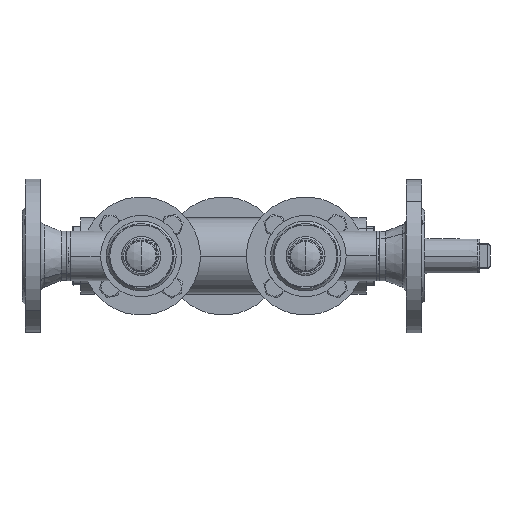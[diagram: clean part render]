
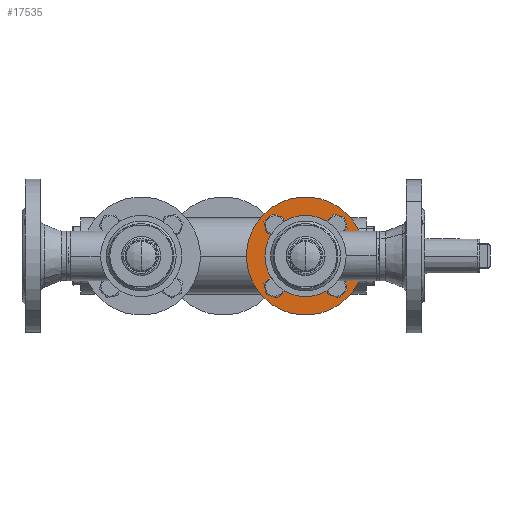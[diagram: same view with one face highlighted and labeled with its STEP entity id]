
A CAD part, left-side view. The second image highlights one B-rep face of the part: STEP entity #17535.
In plain terms, the highlighted planar face has unit normal (-1, 0, 0) as drawn and (0, 1, 0) by its records, which use the part's own axes.
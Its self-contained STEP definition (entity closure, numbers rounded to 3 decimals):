
#17080 = CIRCLE ( 'NONE', #17081, 7. ) ;
#17081 = AXIS2_PLACEMENT_3D ( 'NONE', #17082, #17083, #17111 ) ;
#17082 = CARTESIAN_POINT ( 'NONE',  ( 0., 18., 42.5 ) ) ;
#17083 = DIRECTION ( 'NONE',  ( 0., 1., 0. ) ) ;
#17111 = DIRECTION ( 'NONE',  ( 0., 0., -1. ) ) ;
#17187 = EDGE_LOOP ( 'NONE', ( #15871, #13275 ) ) ;
#1115 = CARTESIAN_POINT ( 'NONE',  ( -49.5, 18., 0. ) ) ;
#17535 = ADVANCED_FACE ( 'NONE', ( #41759, #41760, #41761, #41762, #41763, #41764 ), #41786, .F. ) ;
#17977 = ORIENTED_EDGE ( 'NONE', *, *, #36695, .T. ) ;
#1794 = CARTESIAN_POINT ( 'NONE',  ( 57.5, 18., 0. ) ) ;
#2065 = CIRCLE ( 'NONE', #2066, 7. ) ;
#2066 = AXIS2_PLACEMENT_3D ( 'NONE', #2067, #2068, #2069 ) ;
#2067 = CARTESIAN_POINT ( 'NONE',  ( -42.5, 18., 0. ) ) ;
#2068 = DIRECTION ( 'NONE',  ( 0., 1., 0. ) ) ;
#2069 = DIRECTION ( 'NONE',  ( 1., 0., 0. ) ) ;
#2154 = CIRCLE ( 'NONE', #2155, 57.5 ) ;
#2155 = AXIS2_PLACEMENT_3D ( 'NONE', #2156, #2157, #2158 ) ;
#2156 = CARTESIAN_POINT ( 'NONE',  ( 0., 18., 0. ) ) ;
#2157 = DIRECTION ( 'NONE',  ( 0., 1., 0. ) ) ;
#2158 = DIRECTION ( 'NONE',  ( -1., 0., 0. ) ) ;
#2184 = CARTESIAN_POINT ( 'NONE',  ( -57.5, 18., 0. ) ) ;
#2460 = CIRCLE ( 'NONE', #2461, 57.5 ) ;
#2461 = AXIS2_PLACEMENT_3D ( 'NONE', #2462, #2485, #2486 ) ;
#2462 = CARTESIAN_POINT ( 'NONE',  ( 0., 18., 0. ) ) ;
#2485 = DIRECTION ( 'NONE',  ( 0., 1., 0. ) ) ;
#2486 = DIRECTION ( 'NONE',  ( -1., 0., 0. ) ) ;
#19051 = ORIENTED_EDGE ( 'NONE', *, *, #37037, .T. ) ;
#2723 = VERTEX_POINT ( 'NONE', #11559 ) ;
#19246 = VERTEX_POINT ( 'NONE', #1115 ) ;
#2921 = VERTEX_POINT ( 'NONE', #11793 ) ;
#19558 = VERTEX_POINT ( 'NONE', #1794 ) ;
#3199 = EDGE_CURVE ( 'NONE', #28268, #2723, #14535, .T. ) ;
#19706 = EDGE_CURVE ( 'NONE', #21528, #19246, #2065, .T. ) ;
#3384 = EDGE_CURVE ( 'NONE', #28229, #2921, #15664, .T. ) ;
#20117 = EDGE_LOOP ( 'NONE', ( #19051, #17977 ) ) ;
#3791 = CIRCLE ( 'NONE', #3818, 25.748 ) ;
#3818 = AXIS2_PLACEMENT_3D ( 'NONE', #3819, #3820, #3821 ) ;
#3819 = CARTESIAN_POINT ( 'NONE',  ( 0., 18., 0. ) ) ;
#3820 = DIRECTION ( 'NONE',  ( 0., 1., 0. ) ) ;
#3821 = DIRECTION ( 'NONE',  ( -1., 0., 0. ) ) ;
#36695 = EDGE_CURVE ( 'NONE', #19558, #36735, #2154, .T. ) ;
#36735 = VERTEX_POINT ( 'NONE', #2184 ) ;
#3997 = CARTESIAN_POINT ( 'NONE',  ( -35.5, 18., 0. ) ) ;
#20434 = CARTESIAN_POINT ( 'NONE',  ( 35.5, 18., 0. ) ) ;
#20509 = CARTESIAN_POINT ( 'NONE',  ( -7., 18., -42.5 ) ) ;
#20620 = ORIENTED_EDGE ( 'NONE', *, *, #3384, .F. ) ;
#37037 = EDGE_CURVE ( 'NONE', #36735, #19558, #2460, .T. ) ;
#4681 = EDGE_CURVE ( 'NONE', #2723, #28268, #17080, .T. ) ;
#21125 = CIRCLE ( 'NONE', #21126, 7. ) ;
#21126 = AXIS2_PLACEMENT_3D ( 'NONE', #21127, #21128, #21129 ) ;
#21127 = CARTESIAN_POINT ( 'NONE',  ( 42.5, 18., 0. ) ) ;
#21128 = DIRECTION ( 'NONE',  ( 0., 1., 0. ) ) ;
#21129 = DIRECTION ( 'NONE',  ( -1., 0., 0. ) ) ;
#21160 = CIRCLE ( 'NONE', #21161, 7. ) ;
#21161 = AXIS2_PLACEMENT_3D ( 'NONE', #21162, #21163, #21164 ) ;
#21162 = CARTESIAN_POINT ( 'NONE',  ( 0., 18., -42.5 ) ) ;
#21163 = DIRECTION ( 'NONE',  ( 0., 1., 0. ) ) ;
#21164 = DIRECTION ( 'NONE',  ( 0., 0., 1. ) ) ;
#21528 = VERTEX_POINT ( 'NONE', #3997 ) ;
#21585 = CIRCLE ( 'NONE', #21586, 7. ) ;
#21586 = AXIS2_PLACEMENT_3D ( 'NONE', #21587, #21588, #21589 ) ;
#21587 = CARTESIAN_POINT ( 'NONE',  ( -42.5, 18., 0. ) ) ;
#21588 = DIRECTION ( 'NONE',  ( 0., 1., 0. ) ) ;
#21589 = DIRECTION ( 'NONE',  ( 1., 0., 0. ) ) ;
#38039 = EDGE_CURVE ( 'NONE', #2921, #28229, #3791, .T. ) ;
#21684 = ORIENTED_EDGE ( 'NONE', *, *, #38039, .F. ) ;
#5766 = ORIENTED_EDGE ( 'NONE', *, *, #4681, .F. ) ;
#22750 = EDGE_LOOP ( 'NONE', ( #21684, #20620 ) ) ;
#23243 = ORIENTED_EDGE ( 'NONE', *, *, #8632, .F. ) ;
#7286 = EDGE_LOOP ( 'NONE', ( #5766, #26625 ) ) ;
#24312 = EDGE_CURVE ( 'NONE', #7984, #11227, #8499, .T. ) ;
#7984 = VERTEX_POINT ( 'NONE', #20434 ) ;
#7986 = ORIENTED_EDGE ( 'NONE', *, *, #19706, .F. ) ;
#8043 = VERTEX_POINT ( 'NONE', #20509 ) ;
#24585 = CARTESIAN_POINT ( 'NONE',  ( 49.5, 18., 0. ) ) ;
#24586 = CARTESIAN_POINT ( 'NONE',  ( 7., 18., -42.5 ) ) ;
#8499 = CIRCLE ( 'NONE', #8500, 7. ) ;
#8500 = AXIS2_PLACEMENT_3D ( 'NONE', #8501, #8502, #8503 ) ;
#8501 = CARTESIAN_POINT ( 'NONE',  ( 42.5, 18., 0. ) ) ;
#8502 = DIRECTION ( 'NONE',  ( 0., 1., 0. ) ) ;
#8503 = DIRECTION ( 'NONE',  ( -1., 0., 0. ) ) ;
#8632 = EDGE_CURVE ( 'NONE', #11227, #7984, #21125, .T. ) ;
#8687 = EDGE_CURVE ( 'NONE', #11280, #8043, #21160, .T. ) ;
#25074 = ORIENTED_EDGE ( 'NONE', *, *, #24312, .F. ) ;
#41759 = FACE_BOUND ( 'NONE', #17187, .T. ) ;
#41760 = FACE_BOUND ( 'NONE', #12574, .T. ) ;
#41761 = FACE_BOUND ( 'NONE', #7286, .T. ) ;
#41762 = FACE_BOUND ( 'NONE', #26136, .T. ) ;
#41763 = FACE_BOUND ( 'NONE', #22750, .T. ) ;
#41764 = FACE_OUTER_BOUND ( 'NONE', #20117, .T. ) ;
#41786 = PLANE ( 'NONE',  #41787 ) ;
#41787 = AXIS2_PLACEMENT_3D ( 'NONE', #41788, #41789, #41790 ) ;
#41788 = CARTESIAN_POINT ( 'NONE',  ( 57.5, 18., 0. ) ) ;
#41789 = DIRECTION ( 'NONE',  ( 0., -1., 0. ) ) ;
#41790 = DIRECTION ( 'NONE',  ( 1., 0., 0. ) ) ;
#9494 = EDGE_CURVE ( 'NONE', #19246, #21528, #21585, .T. ) ;
#26136 = EDGE_LOOP ( 'NONE', ( #25074, #23243 ) ) ;
#26625 = ORIENTED_EDGE ( 'NONE', *, *, #3199, .F. ) ;
#10573 = ORIENTED_EDGE ( 'NONE', *, *, #9494, .F. ) ;
#11227 = VERTEX_POINT ( 'NONE', #24585 ) ;
#11280 = VERTEX_POINT ( 'NONE', #24586 ) ;
#11559 = CARTESIAN_POINT ( 'NONE',  ( -7., 18., 42.5 ) ) ;
#11793 = CARTESIAN_POINT ( 'NONE',  ( -25.748, 18., 0. ) ) ;
#28229 = VERTEX_POINT ( 'NONE', #15202 ) ;
#28268 = VERTEX_POINT ( 'NONE', #15204 ) ;
#12574 = EDGE_LOOP ( 'NONE', ( #10573, #7986 ) ) ;
#29194 = CIRCLE ( 'NONE', #29195, 7. ) ;
#29195 = AXIS2_PLACEMENT_3D ( 'NONE', #29196, #29197, #29198 ) ;
#29196 = CARTESIAN_POINT ( 'NONE',  ( 0., 18., -42.5 ) ) ;
#29197 = DIRECTION ( 'NONE',  ( 0., 1., 0. ) ) ;
#29198 = DIRECTION ( 'NONE',  ( 0., 0., 1. ) ) ;
#13275 = ORIENTED_EDGE ( 'NONE', *, *, #8687, .F. ) ;
#14535 = CIRCLE ( 'NONE', #14536, 7. ) ;
#14536 = AXIS2_PLACEMENT_3D ( 'NONE', #14537, #14538, #14539 ) ;
#14537 = CARTESIAN_POINT ( 'NONE',  ( 0., 18., 42.5 ) ) ;
#14538 = DIRECTION ( 'NONE',  ( 0., 1., 0. ) ) ;
#14539 = DIRECTION ( 'NONE',  ( 0., 0., -1. ) ) ;
#14797 = EDGE_CURVE ( 'NONE', #8043, #11280, #29194, .T. ) ;
#15202 = CARTESIAN_POINT ( 'NONE',  ( 25.748, 18., 0. ) ) ;
#15204 = CARTESIAN_POINT ( 'NONE',  ( 7., 18., 42.5 ) ) ;
#15664 = CIRCLE ( 'NONE', #15665, 25.748 ) ;
#15665 = AXIS2_PLACEMENT_3D ( 'NONE', #15666, #15667, #15668 ) ;
#15666 = CARTESIAN_POINT ( 'NONE',  ( 0., 18., 0. ) ) ;
#15667 = DIRECTION ( 'NONE',  ( 0., 1., 0. ) ) ;
#15668 = DIRECTION ( 'NONE',  ( -1., 0., 0. ) ) ;
#15871 = ORIENTED_EDGE ( 'NONE', *, *, #14797, .F. ) ;
